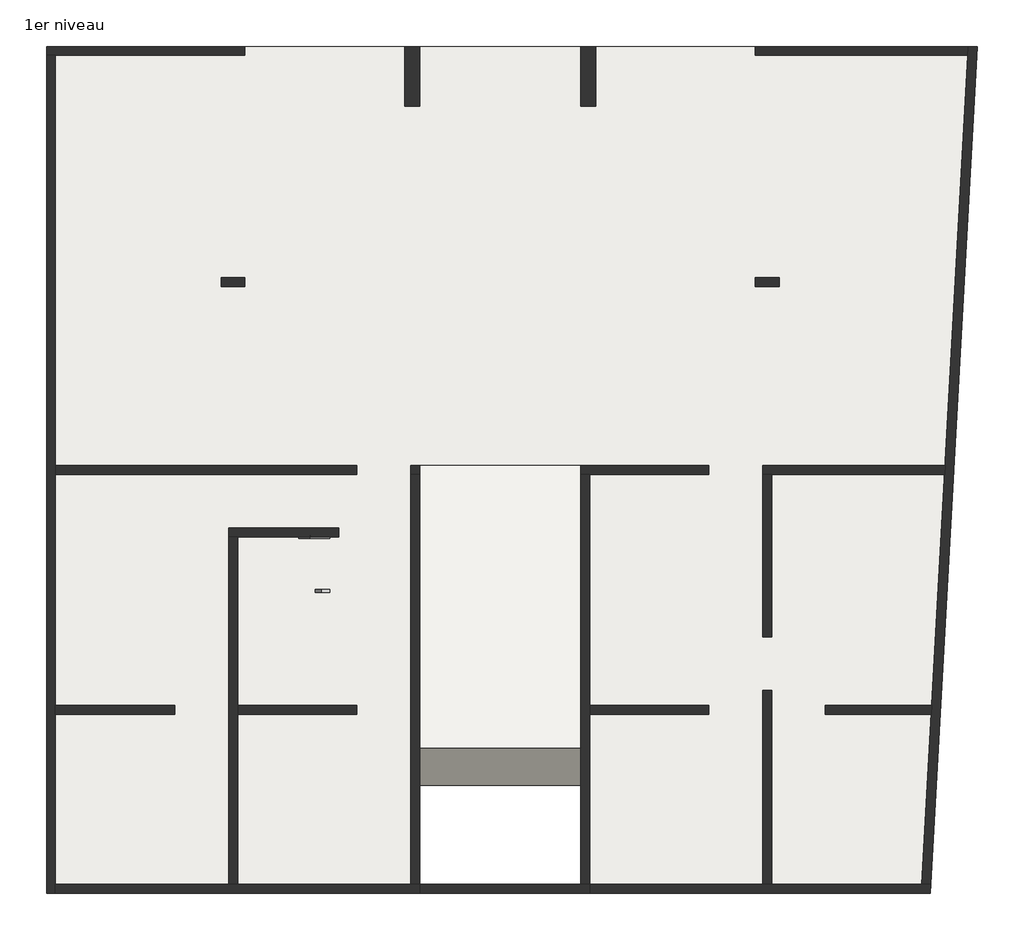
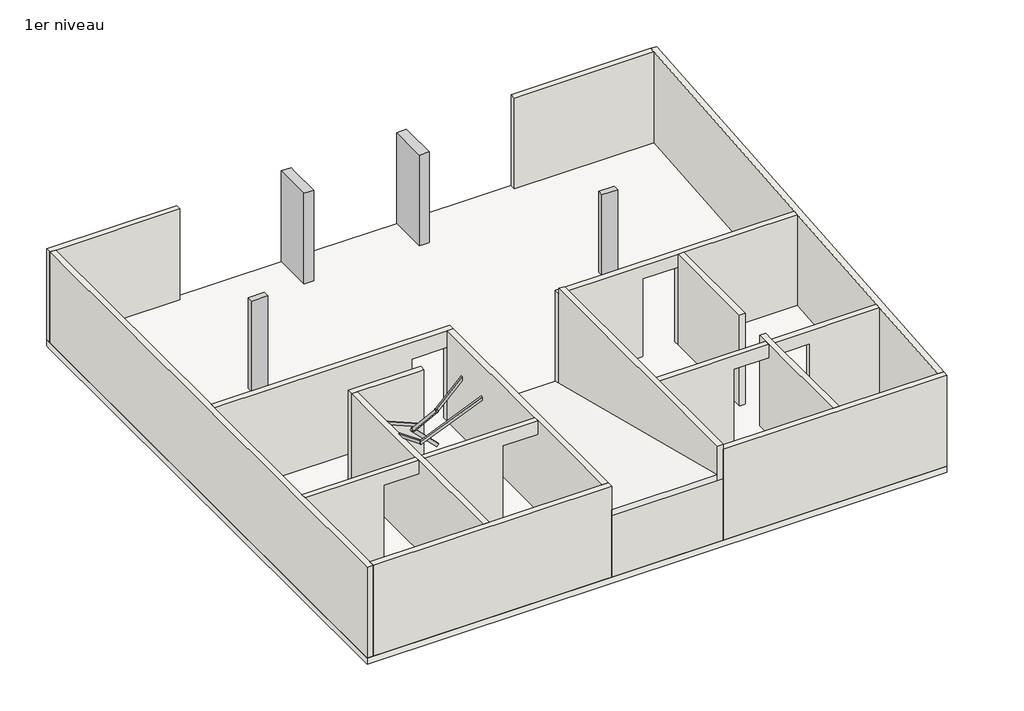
# One storey, incomplete: 20 walls, 4 columns, 2 railings, 2 slabs.
"""IFC4 building model written with IfcOpenShell, lengths in millimetres."""

from ifc_helpers import new_model, si_unit, frame, origin, place, context, project, spatial, polyline, outline, extrude, faceted_brep, transform, mapped, element, save
from components import railing_900_mm_58355f22, railing_900_mm_3c93f63a

model = new_model("IFC4")

# Units and contexts
model_context = context("Model", 3, world=origin())
ifc_project = project(units=[si_unit("LENGTHUNIT", "METRE", prefix="MILLI")], contexts=[model_context])

# Site, building, storey
site = spatial("IfcSite", under=ifc_project)
building = spatial("IfcBuilding", under=site)
storey = spatial("IfcBuildingStorey", under=building, Name="1er niveau", Elevation=-2625.0)

# Columns
placement = place(None, origin())
element("IfcColumn", 1, ObjectType="Béton - Rectangulaire - Poteau : 25 x 100", at=placement, inside=storey, context=model_context, shape_type="Brep", body=[
    faceted_brep([(1919.9771325, 6266.7111972, -2625.0), (1919.9771325, 5266.7111972, -2625.0), (1669.9771325, 5266.7111972, -2625.0), (1669.9771325, 6266.7111972, -2625.0), (1669.9771325, 6266.7111972, -330.0), (1669.9771325, 6266.7111972, -170.0), (1919.9771325, 6266.7111972, -170.0), (1919.9771325, 6266.7111972, -330.0), (1669.9771325, 5266.7111972, -170.0), (1669.9771325, 6116.7111972, -170.0), (1919.9771325, 5266.7111972, -170.0), (1919.9771325, 6116.7111972, -170.0)], [[[0, 1, 2, 3]], [[0, 3, 4, 5, 6, 7]], [[3, 2, 8, 9, 5, 4]], [[2, 1, 10, 8]], [[1, 0, 7, 6, 11, 10]], [[6, 5, 9, 8, 10, 11]]]),
])
element("IfcColumn", 2, ObjectType="Béton - Rectangulaire - Poteau : 25 x 100", at=placement, inside=storey, context=model_context, shape_type="Brep", body=[
    faceted_brep([(-1030.0228675, 6266.7111972, -2625.0), (-1030.0228675, 5266.7111972, -2625.0), (-1280.0228675, 5266.7111972, -2625.0), (-1280.0228675, 6266.7111972, -2625.0), (-1280.0228675, 6266.7111972, -330.0), (-1280.0228675, 6266.7111972, -170.0), (-1030.0228675, 6266.7111972, -170.0), (-1030.0228675, 6266.7111972, -330.0), (-1280.0228675, 5266.7111972, -170.0), (-1280.0228675, 6116.7111972, -170.0), (-1030.0228675, 5266.7111972, -170.0), (-1030.0228675, 6116.7111972, -170.0)], [[[0, 1, 2, 3]], [[0, 3, 4, 5, 6, 7]], [[3, 2, 8, 9, 5, 4]], [[2, 1, 10, 8]], [[1, 0, 7, 6, 11, 10]], [[6, 5, 9, 8, 10, 11]]]),
])
element("IfcColumn", 3, ObjectType="Béton - Rectangulaire - Poteau : 40 x 15", at=placement, inside=storey, context=model_context, shape_type="Brep", body=[
    faceted_brep([(-3955.0228675, 2391.7111972, -2625.0), (-3955.0228675, 2241.7111972, -2625.0), (-4355.0228675, 2241.7111972, -2625.0), (-4355.0228675, 2391.7111972, -2625.0), (-4355.0228675, 2391.7111972, -430.0), (-4355.0228675, 2391.7111972, -170.0), (-3955.0228675, 2391.7111972, -170.0), (-3955.0228675, 2391.7111972, -430.0), (-4355.0228675, 2241.7111972, -430.0), (-4355.0228675, 2241.7111972, -170.0), (-3955.0228675, 2241.7111972, -430.0), (-3955.0228675, 2241.7111972, -170.0)], [[[0, 1, 2, 3]], [[0, 3, 4, 5, 6, 7]], [[3, 2, 8, 9, 5, 4]], [[2, 1, 10, 11, 9, 8]], [[1, 0, 7, 6, 11, 10]], [[6, 5, 9, 11]]]),
])
element("IfcColumn", 4, ObjectType="Béton - Rectangulaire - Poteau : 40 x 15", at=placement, inside=storey, context=model_context, shape_type="SweptSolid", body=[
    extrude(outline(polyline([(4995.5726427, 2391.7111972), (4995.5726427, 2241.7111972), (4595.5726427, 2241.7111972), (4595.5726427, 2391.7111972), (4995.5726427, 2391.7111972)])), frame((0.0, 0.0, -2625.0), z_axis=(0.0, 0.0, 1.0), x_axis=(1.0, 0.0, 0.0)), (0.0, 0.0, 1.0), 2195.0),
])

# Railings
railing_900_mm_shape = railing_900_mm_58355f22(model_context)
element("IfcRailing", 5, ObjectType="900 mm", at=placement, inside=storey, context=model_context, shape_type="MappedRepresentation", body=[
    mapped(railing_900_mm_shape, transform((0.0, 0.0, 0.0), x_axis=(1.0, 0.0, 0.0), y_axis=(0.0, 1.0, 0.0), z_axis=(0.0, 0.0, 1.0))),
])
railing_900_mm_2_shape = railing_900_mm_3c93f63a(model_context)
element("IfcRailing", 6, ObjectType="900 mm", at=placement, inside=storey, context=model_context, shape_type="MappedRepresentation", body=[
    mapped(railing_900_mm_2_shape, transform((0.0, 0.0, 0.0), x_axis=(1.0, 0.0, 0.0), y_axis=(0.0, 1.0, 0.0), z_axis=(0.0, 0.0, 1.0))),
])

# Slabs
element("IfcSlab", 7, ObjectType="Générique  170 mm", at=placement, inside=storey, context=model_context, shape_type="Brep", body=[
    faceted_brep([(8319.9767141, 6266.7111972, -2795.0), (8311.6467221, 6116.7111972, -2795.0), (7531.4041314, -7933.2888028, -2795.0), (7381.1730135, -7933.2888028, -2795.0), (-7280.0228675, -7933.2888028, -2795.0), (-7280.0228675, -7783.2888028, -2795.0), (-7280.0228675, 6116.7111972, -2795.0), (-7280.0228675, 6266.7111972, -2795.0), (-1030.0228675, -7783.2888028, -2795.0), (1669.9771325, -7783.2888028, -2795.0), (1669.9771325, -908.2888028, -2795.0), (-1030.0228675, -908.2888028, -2795.0), (7531.4041314, -7933.2888028, -2625.0), (7539.7341234, -7783.2888028, -2625.0), (8319.9767141, 6266.7111972, -2625.0), (8169.7455963, 6266.7111972, -2625.0), (1919.9771325, 6266.7111972, -2625.0), (1669.9771325, 6266.7111972, -2625.0), (-1030.0228675, 6266.7111972, -2625.0), (-1280.0228675, 6266.7111972, -2625.0), (-7280.0228675, 6266.7111972, -2625.0), (-7280.0228675, 6116.7111972, -2625.0), (-7280.0228675, -7933.2888028, -2625.0), (-7130.0228675, -7933.2888028, -2625.0), (-1030.0228675, -7933.2888028, -2625.0), (1819.9771325, -7933.2888028, -2625.0), (1669.9771325, -758.2888028, -2625.0), (1669.9771325, -908.2888028, -2625.0), (1669.9771325, -7783.2888028, -2625.0), (-1030.0228675, -7783.2888028, -2625.0), (-1030.0228675, -758.2888028, -2625.0), (1669.9771325, -758.2888028, -2785.0), (1669.9771325, -908.2888028, -2746.9512195), (-1030.0228675, -908.2888028, -2746.9512195), (-1030.0228675, -758.2888028, -2785.0)], [[[0, 1, 2, 3, 4, 5, 6, 7], [8, 9, 10, 11]], [[12, 13, 14, 15, 16, 17, 18, 19, 20, 21, 22, 23, 24, 25], [26, 27, 28, 29, 30]], [[2, 1, 0, 14, 13, 12]], [[4, 3, 2, 12, 25, 24, 23, 22]], [[7, 6, 5, 4, 22, 21, 20]], [[0, 7, 20, 19, 18, 17, 16, 15, 14]], [[9, 8, 29, 28]], [[10, 9, 28, 27, 26, 31, 32]], [[11, 10, 32, 33]], [[8, 11, 33, 34, 30, 29]], [[30, 34, 31, 26]], [[31, 34, 33, 32]]]),
])
element("IfcSlab", 8, ObjectType="Générique  160 mm", at=placement, inside=storey, context=model_context, shape_type="Brep", body=[
    faceted_brep([(1669.9771325, -7933.2888028, -965.0), (1669.9771325, -7933.2888028, -805.0), (-1030.0228675, -7933.2888028, -805.0), (-1030.0228675, -7933.2888028, -965.0), (-1030.0228675, -758.2888028, -2625.0), (-1030.0228675, -758.2888028, -2785.0), (-1030.0228675, -908.2888028, -2746.9512195), (-1030.0228675, -7783.2888028, -1003.0487805), (-1030.0228675, -7913.3124439, -970.067174), (1669.9771325, -758.2888028, -2625.0), (1669.9771325, -758.2888028, -2785.0), (1669.9771325, -7913.3124439, -970.067174), (1669.9771325, -7783.2888028, -1003.0487805), (1669.9771325, -908.2888028, -2746.9512195)], [[[0, 1, 2, 3]], [[3, 2, 4, 5, 6, 7, 8]], [[5, 4, 9, 10]], [[10, 9, 1, 0, 11, 12, 13]], [[9, 4, 2, 1]], [[10, 13, 12, 11, 0, 3, 8, 7, 6, 5]]]),
])

# Walls
element("IfcWall", 9, ObjectType="Générique - 150 mm", at=placement, inside=storey, context=model_context, shape_type="Brep", body=[
    faceted_brep([(-7130.0228675, -908.2888028, -170.0), (-7130.0228675, -908.2888028, -2625.0), (-2080.0228675, -908.2888028, -2625.0), (-2080.0228675, -908.2888028, -625.0), (-1180.0228675, -908.2888028, -625.0), (-1180.0228675, -908.2888028, -2625.0), (-1030.0228675, -908.2888028, -2625.0), (-1030.0228675, -908.2888028, -330.0), (-1030.0228675, -908.2888028, -170.0), (-1180.0228675, -908.2888028, -170.0), (-7130.0228675, -758.2888028, -2625.0), (-7130.0228675, -758.2888028, -170.0), (-1030.0228675, -758.2888028, -170.0), (-1030.0228675, -758.2888028, -330.0), (-1030.0228675, -758.2888028, -2625.0), (-1180.0228675, -758.2888028, -2625.0), (-1180.0228675, -758.2888028, -625.0), (-2080.0228675, -758.2888028, -625.0), (-2080.0228675, -758.2888028, -2625.0)], [[[0, 1, 2, 3, 4, 5, 6, 7, 8, 9]], [[10, 11, 12, 13, 14, 15, 16, 17, 18]], [[1, 10, 18, 2]], [[14, 6, 5, 15]], [[1, 0, 11, 10]], [[4, 16, 15, 5]], [[17, 3, 2, 18]], [[16, 4, 3, 17]], [[8, 7, 6, 14, 13, 12]], [[0, 9, 8, 12, 11]]]),
])
element("IfcWall", 10, ObjectType="Générique - 150 mm", at=placement, inside=storey, context=model_context, shape_type="Brep", body=[
    faceted_brep([(-7280.0228675, 6116.7111972, -2625.0), (-7130.0228675, 6116.7111972, -2625.0), (-3955.0228675, 6116.7111972, -2625.0), (-3955.0228675, 6116.7111972, -330.0), (-3955.0228675, 6116.7111972, -170.0), (-7130.0228675, 6116.7111972, -170.0), (-7280.0228675, 6116.7111972, -170.0), (-7280.0228675, 6266.7111972, -2625.0), (-7280.0228675, 6266.7111972, -170.0), (-3955.0228675, 6266.7111972, -170.0), (-3955.0228675, 6266.7111972, -330.0), (-3955.0228675, 6266.7111972, -2625.0)], [[[0, 1, 2, 3, 4, 5, 6]], [[7, 8, 9, 10, 11]], [[2, 1, 0, 7, 11]], [[4, 3, 2, 11, 10, 9]], [[0, 6, 8, 7]], [[6, 5, 4, 9, 8]]]),
])
element("IfcWall", 11, ObjectType="Générique - 150 mm", at=placement, inside=storey, context=model_context, shape_type="Brep", body=[
    faceted_brep([(-3955.0228675, 6266.7111972, -2625.0), (-7280.0228675, 6266.7111972, -2625.0), (-7280.0228675, 6266.7111972, -170.0), (-3955.0228675, 6266.7111972, -170.0), (-3955.0228675, 6266.7111972, -330.0), (-3955.0228675, 6116.7111972, -2625.0), (-3955.0228675, 6116.7111972, -330.0), (-3955.0228675, 6116.7111972, -170.0), (-7130.0228675, 6116.7111972, -170.0), (-7280.0228675, 6116.7111972, -170.0), (-7280.0228675, 6116.7111972, -2625.0), (-7130.0228675, 6116.7111972, -2625.0)], [[[0, 1, 2, 3, 4]], [[5, 6, 7, 8, 9, 10, 11]], [[1, 0, 5, 11, 10]], [[0, 4, 3, 7, 6, 5]], [[2, 1, 10, 9]], [[3, 2, 9, 8, 7]]]),
])
element("IfcWall", 12, ObjectType="Générique - 150 mm", at=placement, inside=storey, context=model_context, shape_type="Brep", body=[
    faceted_brep([(-7280.0228675, 6116.7111972, -2625.0), (-7280.0228675, -7933.2888028, -2625.0), (-7280.0228675, -7933.2888028, -170.0), (-7280.0228675, 6116.7111972, -170.0), (-7130.0228675, 6116.7111972, -2625.0), (-7130.0228675, 6116.7111972, -170.0), (-7130.0228675, -758.2888028, -170.0), (-7130.0228675, -908.2888028, -170.0), (-7130.0228675, -4783.2888028, -170.0), (-7130.0228675, -4933.2888028, -170.0), (-7130.0228675, -7783.2888028, -170.0), (-7130.0228675, -7933.2888028, -170.0), (-7130.0228675, -7933.2888028, -2625.0), (-7130.0228675, -7783.2888028, -2625.0), (-7130.0228675, -4933.2888028, -2625.0), (-7130.0228675, -4783.2888028, -2625.0), (-7130.0228675, -908.2888028, -2625.0), (-7130.0228675, -758.2888028, -2625.0)], [[[0, 1, 2, 3]], [[4, 5, 6, 7, 8, 9, 10, 11, 12, 13, 14, 15, 16, 17]], [[1, 0, 4, 17, 16, 15, 14, 13, 12]], [[0, 3, 5, 4]], [[2, 1, 12, 11]], [[3, 2, 11, 10, 9, 8, 7, 6, 5]]]),
])
element("IfcWall", 13, ObjectType="Générique - 150 mm", at=placement, inside=storey, context=model_context, shape_type="Brep", body=[
    faceted_brep([(-7130.0228675, -7933.2888028, -2625.0), (-1030.0228675, -7933.2888028, -2625.0), (-1030.0228675, -7933.2888028, -970.067174), (-1030.0228675, -7933.2888028, -170.0), (-7130.0228675, -7933.2888028, -170.0), (-7130.0228675, -7783.2888028, -2625.0), (-7130.0228675, -7783.2888028, -170.0), (-4230.0228675, -7783.2888028, -170.0), (-4080.0228675, -7783.2888028, -170.0), (-1180.0228675, -7783.2888028, -170.0), (-1030.0228675, -7783.2888028, -170.0), (-1030.0228675, -7783.2888028, -970.067174), (-1030.0228675, -7783.2888028, -2625.0), (-1180.0228675, -7783.2888028, -2625.0), (-4080.0228675, -7783.2888028, -2625.0), (-4230.0228675, -7783.2888028, -2625.0)], [[[0, 1, 2, 3, 4]], [[5, 6, 7, 8, 9, 10, 11, 12, 13, 14, 15]], [[1, 0, 5, 15, 14, 13, 12]], [[0, 4, 6, 5]], [[1, 12, 11, 10, 3, 2]], [[4, 3, 10, 9, 8, 7, 6]]]),
])
element("IfcWall", 14, ObjectType="Générique - 150 mm", at=placement, inside=storey, context=model_context, shape_type="Brep", body=[
    faceted_brep([(-1030.0228675, -7783.2888028, -170.0), (-1030.0228675, -7783.2888028, -2625.0), (-1030.0228675, -908.2888028, -2625.0), (-1030.0228675, -908.2888028, -170.0), (-1180.0228675, -7783.2888028, -2625.0), (-1180.0228675, -7783.2888028, -170.0), (-1180.0228675, -4933.2888028, -170.0), (-1180.0228675, -4783.2888028, -170.0), (-1180.0228675, -908.2888028, -170.0), (-1180.0228675, -908.2888028, -625.0), (-1180.0228675, -908.2888028, -2625.0)], [[[0, 1, 2, 3]], [[4, 5, 6, 7, 8, 9, 10]], [[2, 1, 4, 10]], [[0, 5, 4, 1]], [[3, 2, 10, 9, 8]], [[0, 3, 8, 7, 6, 5]]]),
])
element("IfcWall", 15, ObjectType="Générique - 150 mm", at=placement, inside=storey, context=model_context, shape_type="Brep", body=[
    faceted_brep([(-2380.0228675, -1808.2888028, -2625.0), (-4230.0228675, -1808.2888028, -2625.0), (-4230.0228675, -1808.2888028, -170.0), (-2380.0228675, -1808.2888028, -170.0), (-2380.0228675, -1958.2888028, -2625.0), (-2380.0228675, -1958.2888028, -170.0), (-2530.0228675, -1958.2888028, -170.0), (-4080.0228675, -1958.2888028, -170.0), (-4230.0228675, -1958.2888028, -170.0), (-4230.0228675, -1958.2888028, -2625.0), (-4080.0228675, -1958.2888028, -2625.0)], [[[0, 1, 2, 3]], [[4, 5, 6, 7, 8, 9, 10]], [[1, 0, 4, 10, 9]], [[0, 3, 5, 4]], [[2, 1, 9, 8]], [[3, 2, 8, 7, 6, 5]]]),
])
element("IfcWall", 16, ObjectType="Générique - 150 mm", at=placement, inside=storey, context=model_context, shape_type="Brep", body=[
    faceted_brep([(-4230.0228675, -1958.2888028, -2625.0), (-4230.0228675, -7783.2888028, -2625.0), (-4230.0228675, -7783.2888028, -170.0), (-4230.0228675, -4933.2888028, -170.0), (-4230.0228675, -4783.2888028, -170.0), (-4230.0228675, -1958.2888028, -170.0), (-4080.0228675, -1958.2888028, -2625.0), (-4080.0228675, -1958.2888028, -170.0), (-4080.0228675, -4783.2888028, -170.0), (-4080.0228675, -4933.2888028, -170.0), (-4080.0228675, -7783.2888028, -170.0), (-4080.0228675, -7783.2888028, -2625.0), (-4080.0228675, -4933.2888028, -2625.0), (-4080.0228675, -4783.2888028, -2625.0)], [[[0, 1, 2, 3, 4, 5]], [[6, 7, 8, 9, 10, 11, 12, 13]], [[1, 0, 6, 13, 12, 11]], [[0, 5, 7, 6]], [[2, 1, 11, 10]], [[5, 4, 3, 2, 10, 9, 8, 7]]]),
])
element("IfcWall", 17, ObjectType="Générique - 150 mm", at=placement, inside=storey, context=model_context, shape_type="SweptSolid", body=[
    extrude(outline(polyline([(-170.0, -7130.0228675), (-2625.0, -7130.0228675), (-2625.0, -5130.0228675), (-525.0, -5130.0228675), (-525.0, -4230.0228675), (-170.0, -4230.0228675), (-170.0, -7130.0228675)])), frame((0.0, -4933.2888028, 0.0), z_axis=(0.0, 1.0, 0.0), x_axis=(0.0, 0.0, 1.0)), (0.0, 0.0, 1.0), 150.0),
])
element("IfcWall", 18, ObjectType="Générique - 150 mm", at=placement, inside=storey, context=model_context, shape_type="Brep", body=[
    faceted_brep([(-4080.0228675, -4933.2888028, -170.0), (-4080.0228675, -4933.2888028, -2625.0), (-2080.0228675, -4933.2888028, -2625.0), (-2080.0228675, -4933.2888028, -525.0), (-1180.0228675, -4933.2888028, -525.0), (-1180.0228675, -4933.2888028, -170.0), (-4080.0228675, -4783.2888028, -2625.0), (-4080.0228675, -4783.2888028, -170.0), (-2530.0228675, -4783.2888028, -170.0), (-1180.0228675, -4783.2888028, -170.0), (-1180.0228675, -4783.2888028, -525.0), (-2080.0228675, -4783.2888028, -525.0), (-2080.0228675, -4783.2888028, -2625.0)], [[[0, 1, 2, 3, 4, 5]], [[6, 7, 8, 9, 10, 11, 12]], [[1, 6, 12, 2]], [[1, 0, 7, 6]], [[9, 5, 4, 10]], [[11, 3, 2, 12]], [[3, 11, 10, 4]], [[7, 0, 5, 9, 8]]]),
])
element("IfcWall", 19, ObjectType="Générique - 150 mm", at=placement, inside=storey, context=model_context, shape_type="Brep", body=[
    faceted_brep([(4720.6357207, -908.2888028, -525.0), (4720.6357207, -908.2888028, -2625.0), (4870.6357207, -908.2888028, -2625.0), (7771.2943089, -908.2888028, -2625.0), (7771.2943089, -908.2888028, -170.0), (4870.6357207, -908.2888028, -170.0), (4720.6357207, -908.2888028, -170.0), (1669.9771325, -908.2888028, -170.0), (1669.9771325, -908.2888028, -330.0), (1669.9771325, -908.2888028, -2625.0), (1819.9771325, -908.2888028, -2625.0), (3820.6357207, -908.2888028, -2625.0), (3820.6357207, -908.2888028, -525.0), (7779.6243009, -758.2888028, -2625.0), (4720.6357207, -758.2888028, -2625.0), (4720.6357207, -758.2888028, -525.0), (3820.6357207, -758.2888028, -525.0), (3820.6357207, -758.2888028, -2625.0), (1669.9771325, -758.2888028, -2625.0), (1669.9771325, -758.2888028, -330.0), (1669.9771325, -758.2888028, -170.0), (7779.6243009, -758.2888028, -170.0)], [[[0, 1, 2, 3, 4, 5, 6, 7, 8, 9, 10, 11, 12]], [[13, 14, 15, 16, 17, 18, 19, 20, 21]], [[11, 10, 9, 18, 17]], [[3, 2, 1, 14, 13]], [[4, 3, 13, 21]], [[17, 16, 12, 11]], [[15, 14, 1, 0]], [[16, 15, 0, 12]], [[7, 6, 5, 4, 21, 20]], [[9, 8, 7, 20, 19, 18]]]),
])
element("IfcWall", 20, ObjectType="Générique - 150 mm", at=placement, inside=storey, context=model_context, shape_type="Brep", body=[
    faceted_brep([(1819.9771325, -7933.2888028, -2625.0), (7531.4041314, -7933.2888028, -2625.0), (7531.4041314, -7933.2888028, -170.0), (1819.9771325, -7933.2888028, -170.0), (1819.9771325, -7933.2888028, -970.067174), (1819.9771325, -7783.2888028, -2625.0), (1819.9771325, -7783.2888028, -970.067174), (1819.9771325, -7783.2888028, -170.0), (4720.5726427, -7783.2888028, -170.0), (4870.5726427, -7783.2888028, -170.0), (7389.5030056, -7783.2888028, -170.0), (7539.7341234, -7783.2888028, -170.0), (7539.7341234, -7783.2888028, -2625.0), (7389.5030056, -7783.2888028, -2625.0), (4870.5726427, -7783.2888028, -2625.0), (4720.5726427, -7783.2888028, -2625.0)], [[[0, 1, 2, 3, 4]], [[5, 6, 7, 8, 9, 10, 11, 12, 13, 14, 15]], [[1, 0, 5, 15, 14, 13, 12]], [[2, 1, 12, 11]], [[3, 2, 11, 10, 9, 8, 7]], [[0, 4, 3, 7, 6, 5]]]),
])
element("IfcWall", 21, ObjectType="Générique - 150 mm", at=placement, inside=storey, context=model_context, shape_type="Brep", body=[
    faceted_brep([(7539.7341234, -7783.2888028, -2625.0), (8319.9767141, 6266.7111972, -2625.0), (8319.9767141, 6266.7111972, -170.0), (7539.7341234, -7783.2888028, -170.0), (7389.5030056, -7783.2888028, -2625.0), (7389.5030056, -7783.2888028, -170.0), (7547.772855, -4933.2888028, -170.0), (7556.102847, -4783.2888028, -170.0), (7771.2943089, -908.2888028, -170.0), (7779.6243009, -758.2888028, -170.0), (8161.4156042, 6116.7111972, -170.0), (8169.7455963, 6266.7111972, -170.0), (8169.7455963, 6266.7111972, -2625.0), (8161.4156042, 6116.7111972, -2625.0), (7779.6243009, -758.2888028, -2625.0), (7771.2943089, -908.2888028, -2625.0), (7556.102847, -4783.2888028, -2625.0), (7547.772855, -4933.2888028, -2625.0)], [[[0, 1, 2, 3]], [[4, 5, 6, 7, 8, 9, 10, 11, 12, 13, 14, 15, 16, 17]], [[1, 0, 4, 17, 16, 15, 14, 13, 12]], [[0, 3, 5, 4]], [[2, 1, 12, 11]], [[3, 2, 11, 10, 9, 8, 7, 6, 5]]]),
])
element("IfcWall", 22, ObjectType="Générique - 150 mm", at=placement, inside=storey, context=model_context, shape_type="SweptSolid", body=[
    extrude(outline(polyline([(4595.5726427, 6266.7111972), (8169.7455963, 6266.7111972), (8161.4156042, 6116.7111972), (4595.5726427, 6116.7111972), (4595.5726427, 6266.7111972)])), frame((0.0, 0.0, -2625.0), z_axis=(0.0, 0.0, 1.0), x_axis=(1.0, 0.0, 0.0)), (0.0, 0.0, 1.0), 2455.0),
])
element("IfcWall", 23, ObjectType="Générique - 150 mm", at=placement, inside=storey, context=model_context, shape_type="Brep", body=[
    faceted_brep([(4720.6357207, -908.2888028, -2625.0), (4720.6357207, -3628.2888028, -2625.0), (4720.6357207, -3628.2888028, -170.0), (4720.6357207, -908.2888028, -170.0), (4720.6357207, -908.2888028, -525.0), (4870.6357207, -908.2888028, -2625.0), (4870.6357207, -908.2888028, -170.0), (4870.6357207, -3628.2888028, -170.0), (4870.6357207, -3628.2888028, -2625.0)], [[[0, 1, 2, 3, 4]], [[5, 6, 7, 8]], [[1, 0, 5, 8]], [[2, 1, 8, 7]], [[0, 4, 3, 6, 5]], [[3, 2, 7, 6]]]),
])
element("IfcWall", 24, ObjectType="Générique - 150 mm", at=placement, inside=storey, context=model_context, shape_type="Brep", body=[
    faceted_brep([(4720.5726427, -4528.2888028, -2625.0), (4720.5726427, -7783.2888028, -2625.0), (4720.5726427, -7783.2888028, -170.0), (4720.5726427, -4933.2888028, -170.0), (4720.5726427, -4783.2888028, -170.0), (4720.5726427, -4528.2888028, -170.0), (4870.5726427, -4528.2888028, -2625.0), (4870.5726427, -4528.2888028, -170.0), (4870.5726427, -4783.2888028, -170.0), (4870.5726427, -4933.2888028, -170.0), (4870.5726427, -7783.2888028, -170.0), (4870.5726427, -7783.2888028, -2625.0)], [[[0, 1, 2, 3, 4, 5]], [[6, 7, 8, 9, 10, 11]], [[1, 0, 6, 11]], [[0, 5, 7, 6]], [[2, 1, 11, 10]], [[5, 4, 3, 2, 10, 9, 8, 7]]]),
])
element("IfcWall", 25, ObjectType="Générique - 150 mm", at=placement, inside=storey, context=model_context, shape_type="SweptSolid", body=[
    extrude(outline(polyline([(-170.0, 4720.5726427), (-170.0, 1819.9771325), (-2625.0, 1819.9771325), (-2625.0, 3820.5726427), (-525.0, 3820.5726427), (-525.0, 4720.5726427), (-170.0, 4720.5726427)])), frame((0.0, -4933.2888028, 0.0), z_axis=(0.0, 1.0, 0.0), x_axis=(0.0, 0.0, 1.0)), (0.0, 0.0, 1.0), 150.0),
])
element("IfcWall", 26, ObjectType="Générique - 150 mm", at=placement, inside=storey, context=model_context, shape_type="Brep", body=[
    faceted_brep([(7547.772855, -4933.2888028, -2625.0), (7547.772855, -4933.2888028, -170.0), (4870.5726427, -4933.2888028, -170.0), (4870.5726427, -4933.2888028, -525.0), (5770.5726427, -4933.2888028, -525.0), (5770.5726427, -4933.2888028, -2625.0), (7556.102847, -4783.2888028, -170.0), (7556.102847, -4783.2888028, -2625.0), (5770.5726427, -4783.2888028, -2625.0), (5770.5726427, -4783.2888028, -525.0), (4870.5726427, -4783.2888028, -525.0), (4870.5726427, -4783.2888028, -170.0)], [[[0, 1, 2, 3, 4, 5]], [[6, 7, 8, 9, 10, 11]], [[7, 0, 5, 8]], [[1, 0, 7, 6]], [[2, 11, 10, 3]], [[4, 9, 8, 5]], [[9, 4, 3, 10]], [[2, 1, 6, 11]]]),
])
element("IfcWall", 27, ObjectType="Générique - 150 mm", at=placement, inside=storey, context=model_context, shape_type="Brep", body=[
    faceted_brep([(-1030.0228675, -7933.2888028, -2625.0), (1819.9771325, -7933.2888028, -2625.0), (1819.9771325, -7933.2888028, -970.067174), (1669.9771325, -7933.2888028, -970.067174), (-1030.0228675, -7933.2888028, -970.067174), (1819.9771325, -7783.2888028, -2625.0), (1669.9771325, -7783.2888028, -2625.0), (-1030.0228675, -7783.2888028, -2625.0), (-1030.0228675, -7783.2888028, -1003.0487805), (1669.9771325, -7783.2888028, -1003.0487805), (1669.9771325, -7783.2888028, -970.067174), (1819.9771325, -7783.2888028, -970.067174), (1669.9771325, -7913.3124439, -970.067174), (-1030.0228675, -7913.3124439, -970.067174)], [[[0, 1, 2, 3, 4]], [[5, 6, 7, 8, 9, 10, 11]], [[1, 0, 7, 6, 5]], [[4, 3, 2, 11, 10, 12, 13]], [[0, 4, 13, 8, 7]], [[2, 1, 5, 11]], [[9, 12, 10]], [[12, 9, 8, 13]]]),
])
element("IfcWall", 28, ObjectType="Générique - 150 mm", at=placement, inside=storey, context=model_context, shape_type="Brep", body=[
    faceted_brep([(1819.9771325, -7783.2888028, -2625.0), (1819.9771325, -4933.2888028, -2625.0), (1819.9771325, -4783.2888028, -2625.0), (1819.9771325, -908.2888028, -2625.0), (1819.9771325, -908.2888028, -30.0), (1819.9771325, -7933.2888028, -30.0), (1819.9771325, -7933.2888028, -170.0), (1819.9771325, -7933.2888028, -970.067174), (1819.9771325, -7783.2888028, -970.067174), (1669.9771325, -7783.2888028, -2625.0), (1669.9771325, -7783.2888028, -970.067174), (1669.9771325, -7933.2888028, -970.067174), (1669.9771325, -7933.2888028, -30.0), (1669.9771325, -908.2888028, -30.0), (1669.9771325, -908.2888028, -170.0), (1669.9771325, -908.2888028, -2625.0)], [[[0, 1, 2, 3, 4, 5, 6, 7, 8]], [[9, 10, 11, 12, 13, 14, 15]], [[3, 2, 1, 0, 9, 15]], [[5, 4, 13, 12]], [[4, 3, 15, 14, 13]], [[7, 11, 10, 8]], [[0, 8, 10, 9]], [[7, 6, 5, 12, 11]]]),
])

save(model, "model.ifc")
